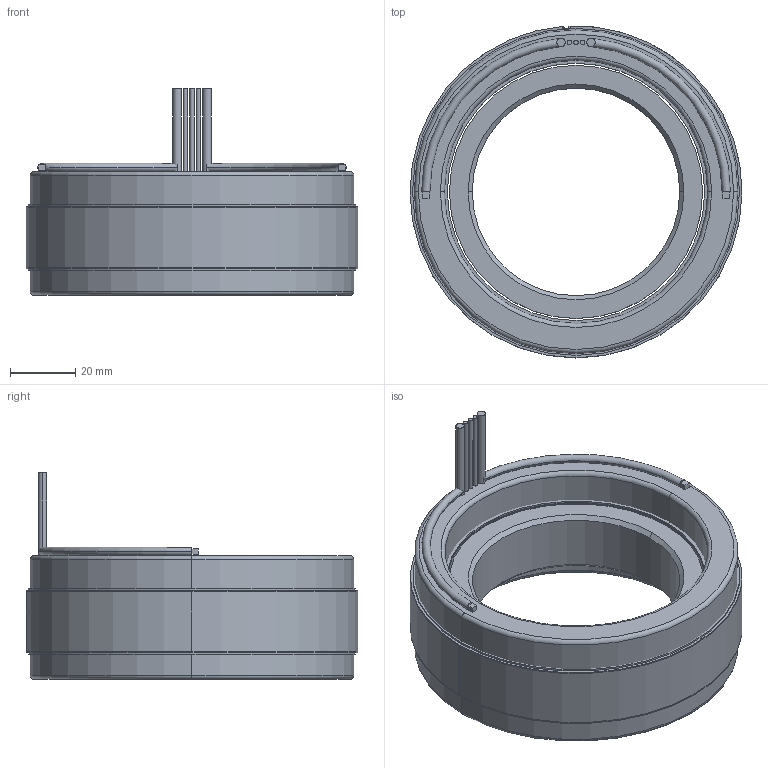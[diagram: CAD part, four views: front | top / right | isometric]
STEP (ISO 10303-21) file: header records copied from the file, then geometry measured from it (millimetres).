
FILE_DESCRIPTION (( 'STEP AP214' ), '1' );
FILE_NAME ('6100339-02.STEP', '2019-10-23T21:16:46', ( '' ), ( '' ), 'SwSTEP 2.0', 'SolidWorks 2016', '' );
FILE_SCHEMA (( 'AUTOMOTIVE_DESIGN' ));
Length unit declared in the file: millimetre
Products named in the file (11): COMP4500542-XX(COIL)_COMP4500542-02(COIL); 4450182-XX_4450182-02; 4150169-XX_4150169-02; 4400095-00; 4500542-XX_4500542-02; 4250363-XX_4250363-02; 4600555-00; 6100339-02
Assembly tree (10 placements, depth 4):
  6100339-02
    4250363-XX_4250363-02
      4150169-XX_4150169-02
    4500542-XX_4500542-02
      4450182-XX_4450182-02
        4450182-XX_4450182-02
        4400095-00
        4400095-00
        4600555-00
        4600555-00
      COMP4500542-XX(COIL)_COMP4500542-02(COIL)
Bounding box: 101.6 x 101.57 x 63.25 mm (x, y, z)
Volume: 193501.8 mm3; surface area: 81884.5 mm2
Topology: 14 solids, 14 shells, 109 faces, 215 edges, 134 vertices
Faces by surface type: cylinder 49, plane 44, torus 12, cone 4
Entity records: 3342 total; most frequent: DIRECTION 603, CARTESIAN_POINT 474, ORIENTED_EDGE 430, AXIS2_PLACEMENT_3D 263, EDGE_CURVE 215, CIRCLE 138, VERTEX_POINT 134, EDGE_LOOP 123
